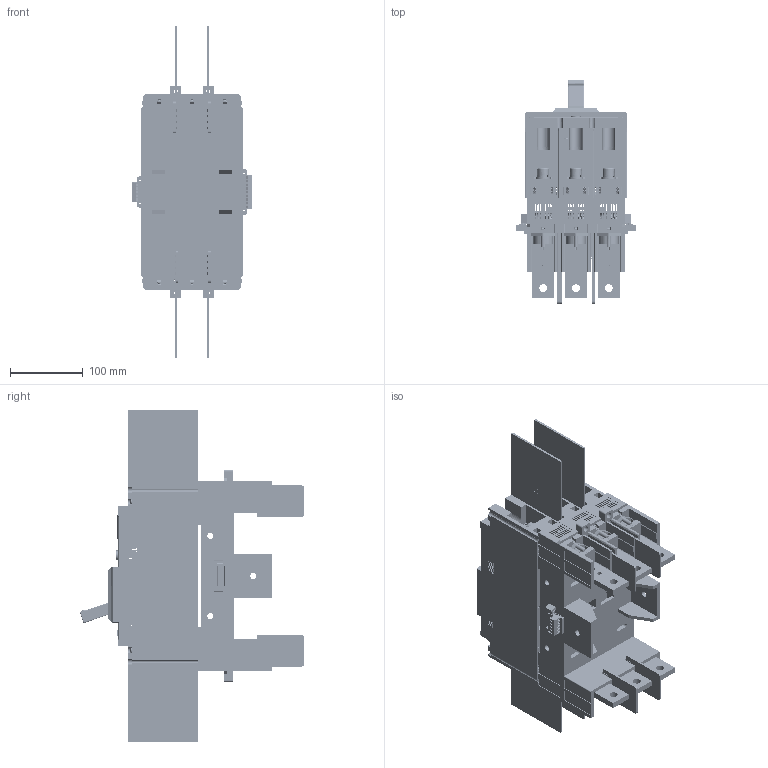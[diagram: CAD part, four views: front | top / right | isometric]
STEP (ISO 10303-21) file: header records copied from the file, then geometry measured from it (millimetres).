
FILE_DESCRIPTION (( 'STEP AP203' ), '1' );
FILE_NAME ('NDM5E-400-3P-P1FH.STEP', '2023-07-28T10:58:26', ( '' ), ( '' ), 'SwSTEP 2.0', 'SolidWorks 2018', '' );
FILE_SCHEMA (( 'CONFIG_CONTROL_DESIGN' ));
Products named in the file (1): NDM5E-400-3P-P1FH
Bounding box: 165.2 x 307.39 x 456 mm (x, y, z)
Surface area: 1532201.3 mm2 (no closed solid volume)
Topology: 0 solids, 265 shells, 25013 faces, 69957 edges, 45619 vertices
Faces by surface type: plane 14279, cylinder 8808, cone 762, torus 585, bspline 501, sphere 78
Entity records: 939172 total; most frequent: CARTESIAN_POINT 382057, ORIENTED_EDGE 139584, DIRECTION 79988, EDGE_CURVE 69808, B_SPLINE_CURVE_WITH_KNOTS 45902, VERTEX_POINT 45619, AXIS2_PLACEMENT_3D 31808, EDGE_LOOP 27073
